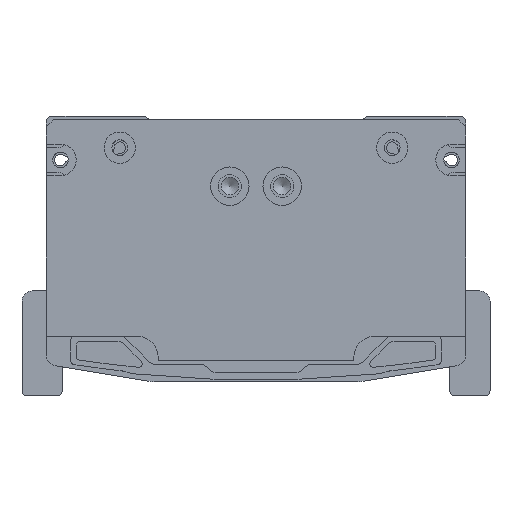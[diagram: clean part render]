
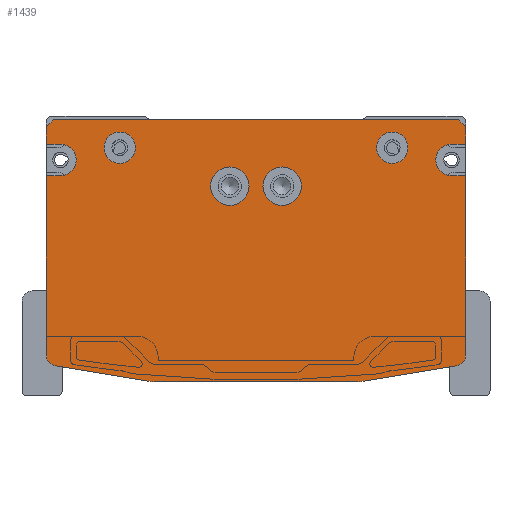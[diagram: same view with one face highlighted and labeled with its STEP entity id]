
A CAD part, front view. The second image highlights one B-rep face of the part: STEP entity #1439.
In plain terms, the highlighted planar face has unit normal (0, -1, 0).
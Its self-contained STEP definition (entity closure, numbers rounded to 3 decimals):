
#1439=ADVANCED_FACE('',(#4412,#4413,#4414,#4415,#4416),#2000,.F.);
#2000=PLANE('',#14331);
#2379=LINE('',#20146,#3368);
#2383=LINE('',#20154,#3372);
#2513=LINE('',#20831,#3502);
#2540=LINE('',#20885,#3529);
#2544=LINE('',#20893,#3533);
#2718=LINE('',#22080,#3707);
#2720=LINE('',#22083,#3709);
#2724=LINE('',#22090,#3713);
#2727=LINE('',#22099,#3716);
#2740=LINE('',#22134,#3729);
#2745=LINE('',#22148,#3734);
#2749=LINE('',#22160,#3738);
#2771=LINE('',#22222,#3760);
#2774=LINE('',#22231,#3763);
#3368=VECTOR('',#15758,1.);
#3372=VECTOR('',#15762,1.);
#3502=VECTOR('',#16194,1.);
#3529=VECTOR('',#16235,1.);
#3533=VECTOR('',#16239,1.);
#3707=VECTOR('',#17047,1.);
#3709=VECTOR('',#17051,1.);
#3713=VECTOR('',#17057,1.);
#3716=VECTOR('',#17068,1.);
#3729=VECTOR('',#17101,1.);
#3734=VECTOR('',#17114,1.);
#3738=VECTOR('',#17126,1.);
#3760=VECTOR('',#17202,1.);
#3763=VECTOR('',#17213,1.);
#4412=FACE_BOUND('',#5352,.T.);
#4413=FACE_BOUND('',#5353,.T.);
#4414=FACE_BOUND('',#5354,.T.);
#4415=FACE_BOUND('',#5355,.T.);
#4416=FACE_BOUND('',#5356,.T.);
#5352=EDGE_LOOP('',(#7809));
#5353=EDGE_LOOP('',(#7810));
#5354=EDGE_LOOP('',(#7811,#7812,#7813,#7814,#7815,#7816,#7817,#7818,#7819,
#7820,#7821,#7822,#7823,#7824,#7825,#7826,#7827,#7828,#7829,#7830));
#5355=EDGE_LOOP('',(#7831));
#5356=EDGE_LOOP('',(#7832));
#7809=ORIENTED_EDGE('',*,*,#11931,.T.);
#7810=ORIENTED_EDGE('',*,*,#11935,.T.);
#7811=ORIENTED_EDGE('',*,*,#11996,.T.);
#7812=ORIENTED_EDGE('',*,*,#11992,.F.);
#7813=ORIENTED_EDGE('',*,*,#11990,.F.);
#7814=ORIENTED_EDGE('',*,*,#11987,.F.);
#7815=ORIENTED_EDGE('',*,*,#11983,.T.);
#7816=ORIENTED_EDGE('',*,*,#11980,.T.);
#7817=ORIENTED_EDGE('',*,*,#11625,.F.);
#7818=ORIENTED_EDGE('',*,*,#11966,.T.);
#7819=ORIENTED_EDGE('',*,*,#11963,.T.);
#7820=ORIENTED_EDGE('',*,*,#11961,.F.);
#7821=ORIENTED_EDGE('',*,*,#11621,.F.);
#7822=ORIENTED_EDGE('',*,*,#11957,.T.);
#7823=ORIENTED_EDGE('',*,*,#11594,.F.);
#7824=ORIENTED_EDGE('',*,*,#11955,.T.);
#7825=ORIENTED_EDGE('',*,*,#11372,.F.);
#7826=ORIENTED_EDGE('',*,*,#12031,.T.);
#7827=ORIENTED_EDGE('',*,*,#12028,.T.);
#7828=ORIENTED_EDGE('',*,*,#12026,.F.);
#7829=ORIENTED_EDGE('',*,*,#11368,.F.);
#7830=ORIENTED_EDGE('',*,*,#11999,.T.);
#7831=ORIENTED_EDGE('',*,*,#11942,.F.);
#7832=ORIENTED_EDGE('',*,*,#11938,.F.);
#9971=VERTEX_POINT('',#20145);
#9972=VERTEX_POINT('',#20147);
#9975=VERTEX_POINT('',#20153);
#9976=VERTEX_POINT('',#20155);
#10095=VERTEX_POINT('',#20830);
#10096=VERTEX_POINT('',#20832);
#10115=VERTEX_POINT('',#20884);
#10116=VERTEX_POINT('',#20886);
#10119=VERTEX_POINT('',#20892);
#10120=VERTEX_POINT('',#20894);
#10335=VERTEX_POINT('',#22023);
#10339=VERTEX_POINT('',#22034);
#10342=VERTEX_POINT('',#22043);
#10345=VERTEX_POINT('',#22053);
#10353=VERTEX_POINT('',#22088);
#10355=VERTEX_POINT('',#22095);
#10366=VERTEX_POINT('',#22129);
#10368=VERTEX_POINT('',#22135);
#10371=VERTEX_POINT('',#22143);
#10373=VERTEX_POINT('',#22149);
#10374=VERTEX_POINT('',#22153);
#10377=VERTEX_POINT('',#22161);
#10389=VERTEX_POINT('',#22220);
#10391=VERTEX_POINT('',#22227);
#11368=EDGE_CURVE('',#9971,#9972,#2379,.T.);
#11372=EDGE_CURVE('',#9975,#9976,#2383,.T.);
#11594=EDGE_CURVE('',#10095,#10096,#2513,.T.);
#11621=EDGE_CURVE('',#10115,#10116,#2540,.T.);
#11625=EDGE_CURVE('',#10119,#10120,#2544,.T.);
#11931=EDGE_CURVE('',#10335,#10335,#13154,.T.);
#11935=EDGE_CURVE('',#10339,#10339,#13158,.T.);
#11938=EDGE_CURVE('',#10342,#10342,#13161,.T.);
#11942=EDGE_CURVE('',#10345,#10345,#13165,.T.);
#11955=EDGE_CURVE('',#10095,#9976,#2718,.T.);
#11957=EDGE_CURVE('',#10115,#10096,#2720,.T.);
#11961=EDGE_CURVE('',#10116,#10353,#2724,.T.);
#11963=EDGE_CURVE('',#10355,#10353,#13172,.T.);
#11966=EDGE_CURVE('',#10119,#10355,#2727,.T.);
#11980=EDGE_CURVE('',#10366,#10120,#13175,.T.);
#11983=EDGE_CURVE('',#10368,#10366,#2740,.T.);
#11987=EDGE_CURVE('',#10368,#10371,#13178,.T.);
#11990=EDGE_CURVE('',#10371,#10373,#2745,.T.);
#11992=EDGE_CURVE('',#10373,#10374,#13179,.T.);
#11996=EDGE_CURVE('',#10377,#10374,#2749,.T.);
#11999=EDGE_CURVE('',#9971,#10377,#13182,.T.);
#12026=EDGE_CURVE('',#9972,#10389,#2771,.T.);
#12028=EDGE_CURVE('',#10391,#10389,#13190,.T.);
#12031=EDGE_CURVE('',#9975,#10391,#2774,.T.);
#13154=CIRCLE('',#14232,5.5);
#13158=CIRCLE('',#14239,5.5);
#13161=CIRCLE('',#14245,4.5);
#13165=CIRCLE('',#14252,4.5);
#13172=CIRCLE('',#14270,4.5);
#13175=CIRCLE('',#14279,3.);
#13178=CIRCLE('',#14284,10.);
#13179=CIRCLE('',#14287,10.);
#13182=CIRCLE('',#14292,3.);
#13190=CIRCLE('',#14319,4.5);
#14232=AXIS2_PLACEMENT_3D('',#22022,#16972,#16973);
#14239=AXIS2_PLACEMENT_3D('',#22033,#16986,#16987);
#14245=AXIS2_PLACEMENT_3D('',#22042,#16998,#16999);
#14252=AXIS2_PLACEMENT_3D('',#22052,#17012,#17013);
#14270=AXIS2_PLACEMENT_3D('',#22094,#17062,#17063);
#14279=AXIS2_PLACEMENT_3D('',#22128,#17094,#17095);
#14284=AXIS2_PLACEMENT_3D('',#22142,#17108,#17109);
#14287=AXIS2_PLACEMENT_3D('',#22152,#17118,#17119);
#14292=AXIS2_PLACEMENT_3D('',#22165,#17132,#17133);
#14319=AXIS2_PLACEMENT_3D('',#22226,#17207,#17208);
#14331=AXIS2_PLACEMENT_3D('',#22248,#17238,#17239);
#15758=DIRECTION('',(0.,0.,1.));
#15762=DIRECTION('',(0.,0.,1.));
#16194=DIRECTION('',(1.,0.,0.));
#16235=DIRECTION('',(0.,0.,-1.));
#16239=DIRECTION('',(0.,0.,-1.));
#16972=DIRECTION('',(0.,1.,0.));
#16973=DIRECTION('',(1.,0.,0.));
#16986=DIRECTION('',(0.,1.,0.));
#16987=DIRECTION('',(1.,0.,0.));
#16998=DIRECTION('',(0.,-1.,0.));
#16999=DIRECTION('',(1.,0.,0.));
#17012=DIRECTION('',(0.,-1.,0.));
#17013=DIRECTION('',(1.,0.,0.));
#17047=DIRECTION('',(-0.707,0.,-0.707));
#17051=DIRECTION('',(-0.707,0.,0.707));
#17057=DIRECTION('',(-1.,0.,0.));
#17062=DIRECTION('',(0.,1.,0.));
#17063=DIRECTION('',(0.,0.,-1.));
#17068=DIRECTION('',(-1.,0.,0.));
#17094=DIRECTION('',(0.,-1.,0.));
#17095=DIRECTION('',(0.164,0.,-0.986));
#17101=DIRECTION('',(0.986,0.,0.164));
#17108=DIRECTION('',(0.,1.,0.));
#17109=DIRECTION('',(0.164,0.,-0.986));
#17114=DIRECTION('',(-1.,0.,0.));
#17118=DIRECTION('',(0.,1.,0.));
#17119=DIRECTION('',(0.,0.,-1.));
#17126=DIRECTION('',(0.986,0.,-0.164));
#17132=DIRECTION('',(0.,-1.,0.));
#17133=DIRECTION('',(-1.,0.,0.));
#17202=DIRECTION('',(1.,0.,0.));
#17207=DIRECTION('',(0.,1.,0.));
#17208=DIRECTION('',(0.,0.,1.));
#17213=DIRECTION('',(1.,0.,0.));
#17238=DIRECTION('',(0.,1.,0.));
#17239=DIRECTION('',(1.,0.,0.));
#20145=CARTESIAN_POINT('',(-60.,-212.,-69.459));
#20146=CARTESIAN_POINT('',(-60.,-212.,-69.459));
#20147=CARTESIAN_POINT('',(-60.,-212.,-18.));
#20153=CARTESIAN_POINT('',(-60.,-212.,-9.));
#20154=CARTESIAN_POINT('',(-60.,-212.,-9.));
#20155=CARTESIAN_POINT('',(-60.,-212.,-4.));
#20830=CARTESIAN_POINT('',(-58.,-212.,-2.));
#20831=CARTESIAN_POINT('',(-58.,-212.,-2.));
#20832=CARTESIAN_POINT('',(58.,-212.,-2.));
#20884=CARTESIAN_POINT('',(60.,-212.,-4.));
#20885=CARTESIAN_POINT('',(60.,-212.,-4.));
#20886=CARTESIAN_POINT('',(60.,-212.,-9.));
#20892=CARTESIAN_POINT('',(60.,-212.,-18.));
#20893=CARTESIAN_POINT('',(60.,-212.,-18.));
#20894=CARTESIAN_POINT('',(60.,-212.,-69.459));
#22022=CARTESIAN_POINT('',(7.5,-212.,-21.));
#22023=CARTESIAN_POINT('',(13.,-212.,-21.));
#22033=CARTESIAN_POINT('',(-7.5,-212.,-21.));
#22034=CARTESIAN_POINT('',(-2.,-212.,-21.));
#22042=CARTESIAN_POINT('',(-39.,-212.,-10.));
#22043=CARTESIAN_POINT('',(-34.5,-212.,-10.));
#22052=CARTESIAN_POINT('',(39.,-212.,-10.));
#22053=CARTESIAN_POINT('',(43.5,-212.,-10.));
#22080=CARTESIAN_POINT('',(-58.,-212.,-2.));
#22083=CARTESIAN_POINT('',(60.,-212.,-4.));
#22088=CARTESIAN_POINT('',(56.,-212.,-9.));
#22090=CARTESIAN_POINT('',(60.,-212.,-9.));
#22094=CARTESIAN_POINT('',(56.,-212.,-13.5));
#22095=CARTESIAN_POINT('',(56.,-212.,-18.));
#22099=CARTESIAN_POINT('',(60.,-212.,-18.));
#22128=CARTESIAN_POINT('',(57.,-212.,-69.459));
#22129=CARTESIAN_POINT('',(57.493,-212.,-72.418));
#22134=CARTESIAN_POINT('',(30.816,-212.,-76.864));
#22135=CARTESIAN_POINT('',(30.816,-212.,-76.864));
#22142=CARTESIAN_POINT('',(29.172,-212.,-67.));
#22143=CARTESIAN_POINT('',(29.172,-212.,-77.));
#22148=CARTESIAN_POINT('',(29.172,-212.,-77.));
#22149=CARTESIAN_POINT('',(-29.172,-212.,-77.));
#22152=CARTESIAN_POINT('',(-29.172,-212.,-67.));
#22153=CARTESIAN_POINT('',(-30.816,-212.,-76.864));
#22160=CARTESIAN_POINT('',(-57.493,-212.,-72.418));
#22161=CARTESIAN_POINT('',(-57.493,-212.,-72.418));
#22165=CARTESIAN_POINT('',(-57.,-212.,-69.459));
#22220=CARTESIAN_POINT('',(-56.,-212.,-18.));
#22222=CARTESIAN_POINT('',(-60.,-212.,-18.));
#22226=CARTESIAN_POINT('',(-56.,-212.,-13.5));
#22227=CARTESIAN_POINT('',(-56.,-212.,-9.));
#22231=CARTESIAN_POINT('',(-60.,-212.,-9.));
#22248=CARTESIAN_POINT('',(0.,-212.,-2.));
